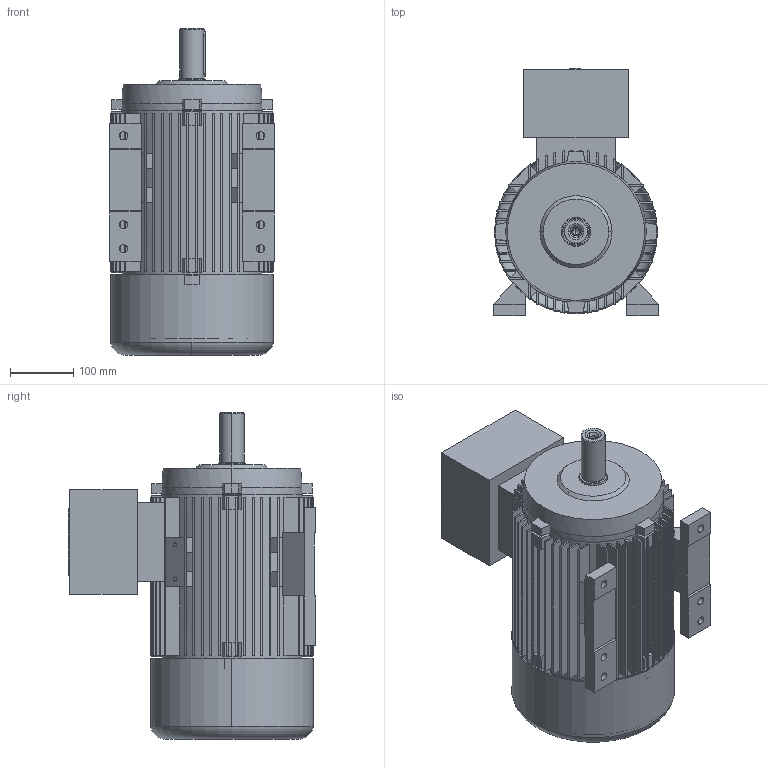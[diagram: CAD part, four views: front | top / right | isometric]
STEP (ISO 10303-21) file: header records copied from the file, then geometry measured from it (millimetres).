
FILE_DESCRIPTION (( 'STEP AP214' ), '1' );
FILE_NAME ('7AT 132S&M B3 Exd STANDK.STEP', '2018-05-10T14:18:58', ( '' ), ( '' ), 'SwSTEP 2.0', 'SolidWorks 2017', '' );
FILE_SCHEMA (( 'AUTOMOTIVE_DESIGN' ));
Length unit declared in the file: millimetre
Products named in the file (1): 7AT 132S&M B3 Exd STANDK
Bounding box: 260 x 390 x 515 mm (x, y, z)
Volume: 11596919 mm3; surface area: 2467608 mm2
Topology: 10 solids, 10 shells, 1130 faces, 3097 edges, 2039 vertices
Faces by surface type: plane 807, cylinder 264, cone 46, bspline 9, torus 4
Entity records: 36874 total; most frequent: CARTESIAN_POINT 6474, DIRECTION 6231, ORIENTED_EDGE 6142, EDGE_CURVE 3071, LINE 2079, VECTOR 2079, AXIS2_PLACEMENT_3D 2076, VERTEX_POINT 2039
